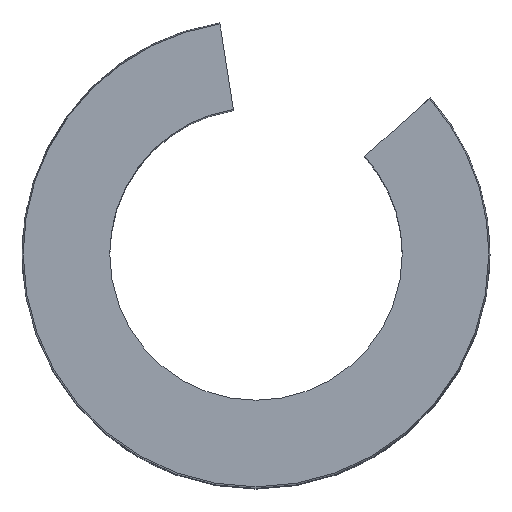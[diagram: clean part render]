
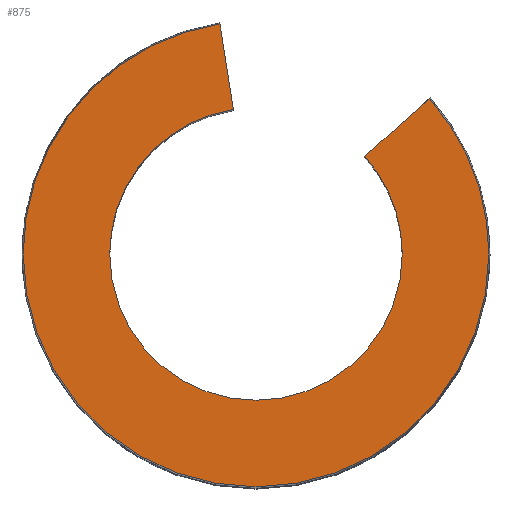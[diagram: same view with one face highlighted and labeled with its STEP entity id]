
A CAD part, top view. The second image highlights one B-rep face of the part: STEP entity #875.
In plain terms, the highlighted planar face has unit normal (0, 0, 1).
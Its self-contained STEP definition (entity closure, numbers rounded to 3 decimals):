
#439=CARTESIAN_POINT('',(17.101,1.811,58.));
#440=VERTEX_POINT('',#439);
#448=CARTESIAN_POINT('',(12.013,15.101,58.));
#449=VERTEX_POINT('',#448);
#456=CARTESIAN_POINT('',(-2.799,1.811,58.));
#457=DIRECTION('',(0.0,0.0,-1.0));
#458=DIRECTION('',(-1.0,0.0,0.0));
#459=AXIS2_PLACEMENT_3D('',#456,#457,#458);
#460=CIRCLE('',#459,19.9);
#461=EDGE_CURVE('',#449,#440,#460,.T.);
#471=CARTESIAN_POINT('',(-22.699,1.811,58.));
#472=VERTEX_POINT('',#471);
#479=CARTESIAN_POINT('',(-5.878,21.472,58.));
#480=VERTEX_POINT('',#479);
#481=CARTESIAN_POINT('',(-2.799,1.811,58.));
#482=DIRECTION('',(0.0,0.0,-1.0));
#483=DIRECTION('',(-1.0,0.0,0.0));
#484=AXIS2_PLACEMENT_3D('',#481,#482,#483);
#485=CIRCLE('',#484,19.9);
#486=EDGE_CURVE('',#472,#480,#485,.T.);
#513=CARTESIAN_POINT('',(9.701,1.811,58.));
#514=VERTEX_POINT('',#513);
#521=CARTESIAN_POINT('',(6.505,10.159,58.));
#522=VERTEX_POINT('',#521);
#523=CARTESIAN_POINT('',(-2.799,1.811,58.));
#524=DIRECTION('',(0.0,0.0,-1.0));
#525=DIRECTION('',(-1.0,0.0,0.0));
#526=AXIS2_PLACEMENT_3D('',#523,#524,#525);
#527=CIRCLE('',#526,12.5);
#528=EDGE_CURVE('',#522,#514,#527,.T.);
#553=CARTESIAN_POINT('',(-15.299,1.811,58.));
#554=VERTEX_POINT('',#553);
#563=CARTESIAN_POINT('',(-2.799,1.811,58.));
#564=DIRECTION('',(0.0,0.0,-1.0));
#565=DIRECTION('',(-1.0,0.0,0.0));
#566=AXIS2_PLACEMENT_3D('',#563,#564,#565);
#567=CIRCLE('',#566,12.5);
#568=EDGE_CURVE('',#514,#554,#567,.T.);
#692=CARTESIAN_POINT('',(-4.733,14.161,58.));
#693=VERTEX_POINT('',#692);
#760=CARTESIAN_POINT('',(-4.733,14.161,58.));
#761=DIRECTION('',(-0.155,0.988,0.0));
#762=VECTOR('',#761,7.4);
#763=LINE('',#760,#762);
#764=EDGE_CURVE('',#693,#480,#763,.T.);
#775=CARTESIAN_POINT('',(12.013,15.101,58.));
#776=DIRECTION('',(-0.744,-0.668,0.0));
#777=VECTOR('',#776,7.4);
#778=LINE('',#775,#777);
#779=EDGE_CURVE('',#449,#522,#778,.T.);
#844=CARTESIAN_POINT('',(-2.799,1.811,58.));
#845=DIRECTION('',(0.0,0.0,-1.0));
#846=DIRECTION('',(-1.0,0.0,0.0));
#847=AXIS2_PLACEMENT_3D('',#844,#845,#846);
#848=CIRCLE('',#847,12.5);
#849=EDGE_CURVE('',#554,#693,#848,.T.);
#854=CARTESIAN_POINT('',(-2.799,1.811,58.));
#855=DIRECTION('',(0.0,0.0,-1.0));
#856=DIRECTION('',(-1.0,0.0,0.0));
#857=AXIS2_PLACEMENT_3D('',#854,#855,#856);
#858=PLANE('',#857);
#859=ORIENTED_EDGE('',*,*,#764,.T.);
#860=ORIENTED_EDGE('',*,*,#486,.F.);
#861=CARTESIAN_POINT('',(-2.799,1.811,58.));
#862=DIRECTION('',(0.0,0.0,-1.0));
#863=DIRECTION('',(-1.0,0.0,0.0));
#864=AXIS2_PLACEMENT_3D('',#861,#862,#863);
#865=CIRCLE('',#864,19.9);
#866=EDGE_CURVE('',#440,#472,#865,.T.);
#867=ORIENTED_EDGE('',*,*,#866,.F.);
#868=ORIENTED_EDGE('',*,*,#461,.F.);
#869=ORIENTED_EDGE('',*,*,#779,.T.);
#870=ORIENTED_EDGE('',*,*,#528,.T.);
#871=ORIENTED_EDGE('',*,*,#568,.T.);
#872=ORIENTED_EDGE('',*,*,#849,.T.);
#873=EDGE_LOOP('',(#859,#860,#867,#868,#869,#870,#871,#872));
#874=FACE_OUTER_BOUND('',#873,.T.);
#875=ADVANCED_FACE('',(#874),#858,.F.);
